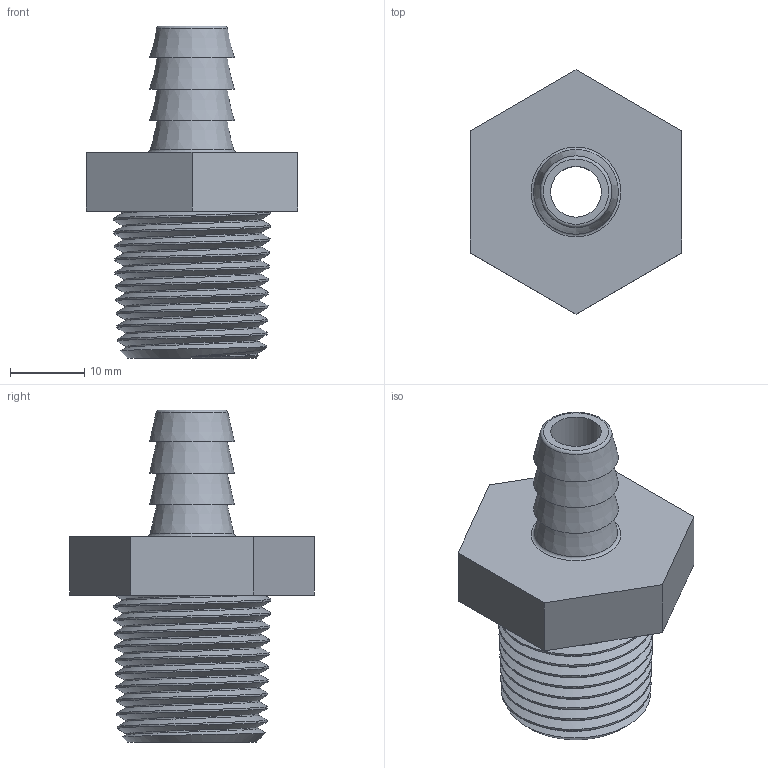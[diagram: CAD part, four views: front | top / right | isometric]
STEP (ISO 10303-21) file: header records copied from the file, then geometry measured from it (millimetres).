
FILE_DESCRIPTION(/* description */ ('STEP AP203'),/* implementation_level */ '2;1');
FILE_NAME(/* name */ 'E:\ECM v2.0 9x19 Beta\Alternate Parts\Hose Fitting Printable.stp',/* time_stamp */ '2021-02-15T11:27:13-06:00',/* author */ ('johne'),/* organization */ (''),/* preprocessor_version */ 'ST-DEVELOPER v18',/* originating_system */ 'Autodesk Inventor 2020',/* authorisation */ '');
FILE_SCHEMA (('AUTOMOTIVE_DESIGN { 1 0 10303 214 3 1 1 }'));
Length unit declared in the file: inch
Products named in the file (1): Barbed Hose Fitting
Bounding box: 28.57 x 33 x 44.85 mm (x, y, z)
Volume: 8927 mm3; surface area: 6135.8 mm2
Topology: 1 solids, 1 shells, 39 faces, 108 edges, 76 vertices
Faces by surface type: cone 19, plane 13, bspline 3, torus 2, cylinder 2
Full cylindrical faces by diameter (mm): 6.858 x1, 13.868 x1
Entity records: 7345 total; most frequent: CARTESIAN_POINT 6319, ORIENTED_EDGE 216, DIRECTION 188, EDGE_CURVE 108, VERTEX_POINT 76, AXIS2_PLACEMENT_3D 75, EDGE_LOOP 46, FACE_OUTER_BOUND 39
